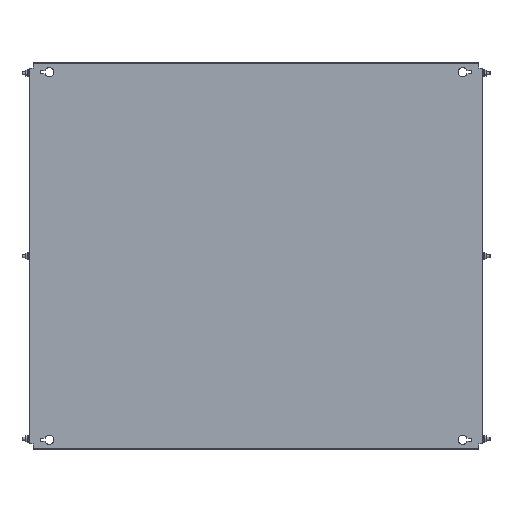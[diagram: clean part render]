
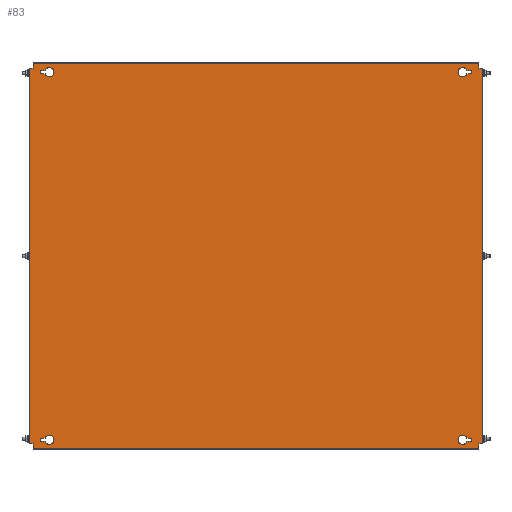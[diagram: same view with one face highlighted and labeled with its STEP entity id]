
A CAD part, top view. The second image highlights one B-rep face of the part: STEP entity #83.
In plain terms, the highlighted planar face has unit normal (0, 0, 1).
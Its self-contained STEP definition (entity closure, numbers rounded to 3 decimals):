
#83 = ADVANCED_FACE('',(#84,#119,#154,#316,#351),#386,.T.);
#84 = FACE_BOUND('',#85,.T.);
#85 = EDGE_LOOP('',(#86,#96,#104,#112));
#86 = ORIENTED_EDGE('',*,*,#87,.T.);
#87 = EDGE_CURVE('',#88,#90,#92,.T.);
#88 = VERTEX_POINT('',#89);
#89 = CARTESIAN_POINT('',(418.393,367.75,2.));
#90 = VERTEX_POINT('',#91);
#91 = CARTESIAN_POINT('',(428.,367.75,2.));
#92 = LINE('',#93,#94);
#93 = CARTESIAN_POINT('',(427.,367.75,2.));
#94 = VECTOR('',#95,1.);
#95 = DIRECTION('',(1.,0.,0.));
#96 = ORIENTED_EDGE('',*,*,#97,.T.);
#97 = EDGE_CURVE('',#90,#98,#100,.T.);
#98 = VERTEX_POINT('',#99);
#99 = CARTESIAN_POINT('',(428.,361.25,2.));
#100 = LINE('',#101,#102);
#101 = CARTESIAN_POINT('',(428.,367.75,2.));
#102 = VECTOR('',#103,1.);
#103 = DIRECTION('',(0.,-1.,0.));
#104 = ORIENTED_EDGE('',*,*,#105,.T.);
#105 = EDGE_CURVE('',#98,#106,#108,.T.);
#106 = VERTEX_POINT('',#107);
#107 = CARTESIAN_POINT('',(418.393,361.25,2.));
#108 = LINE('',#109,#110);
#109 = CARTESIAN_POINT('',(427.,361.25,2.));
#110 = VECTOR('',#111,1.);
#111 = DIRECTION('',(-1.,0.,0.));
#112 = ORIENTED_EDGE('',*,*,#113,.T.);
#113 = EDGE_CURVE('',#106,#88,#114,.T.);
#114 = CIRCLE('',#115,9.);
#115 = AXIS2_PLACEMENT_3D('',#116,#117,#118);
#116 = CARTESIAN_POINT('',(410.,364.5,2.));
#117 = DIRECTION('',(0.,0.,-1.));
#118 = DIRECTION('',(1.,0.,0.));
#119 = FACE_BOUND('',#120,.T.);
#120 = EDGE_LOOP('',(#121,#131,#139,#147));
#121 = ORIENTED_EDGE('',*,*,#122,.T.);
#122 = EDGE_CURVE('',#123,#125,#127,.T.);
#123 = VERTEX_POINT('',#124);
#124 = CARTESIAN_POINT('',(-418.393,-367.75,2.));
#125 = VERTEX_POINT('',#126);
#126 = CARTESIAN_POINT('',(-428.,-367.75,2.));
#127 = LINE('',#128,#129);
#128 = CARTESIAN_POINT('',(-427.,-367.75,2.));
#129 = VECTOR('',#130,1.);
#130 = DIRECTION('',(-1.,0.,0.));
#131 = ORIENTED_EDGE('',*,*,#132,.T.);
#132 = EDGE_CURVE('',#125,#133,#135,.T.);
#133 = VERTEX_POINT('',#134);
#134 = CARTESIAN_POINT('',(-428.,-361.25,2.));
#135 = LINE('',#136,#137);
#136 = CARTESIAN_POINT('',(-428.,-367.75,2.));
#137 = VECTOR('',#138,1.);
#138 = DIRECTION('',(0.,1.,0.));
#139 = ORIENTED_EDGE('',*,*,#140,.T.);
#140 = EDGE_CURVE('',#133,#141,#143,.T.);
#141 = VERTEX_POINT('',#142);
#142 = CARTESIAN_POINT('',(-418.393,-361.25,2.));
#143 = LINE('',#144,#145);
#144 = CARTESIAN_POINT('',(-427.,-361.25,2.));
#145 = VECTOR('',#146,1.);
#146 = DIRECTION('',(1.,-0.,-0.));
#147 = ORIENTED_EDGE('',*,*,#148,.T.);
#148 = EDGE_CURVE('',#141,#123,#149,.T.);
#149 = CIRCLE('',#150,9.);
#150 = AXIS2_PLACEMENT_3D('',#151,#152,#153);
#151 = CARTESIAN_POINT('',(-410.,-364.5,2.));
#152 = DIRECTION('',(0.,0.,-1.));
#153 = DIRECTION('',(-1.,0.,0.));
#154 = FACE_BOUND('',#155,.T.);
#155 = EDGE_LOOP('',(#156,#166,#174,#182,#190,#198,#206,#214,#222,#230,
    #238,#246,#254,#262,#270,#278,#286,#294,#302,#310));
#156 = ORIENTED_EDGE('',*,*,#157,.F.);
#157 = EDGE_CURVE('',#158,#160,#162,.T.);
#158 = VERTEX_POINT('',#159);
#159 = CARTESIAN_POINT('',(-447.4,372.5,2.));
#160 = VERTEX_POINT('',#161);
#161 = CARTESIAN_POINT('',(-442.,372.5,2.));
#162 = LINE('',#163,#164);
#163 = CARTESIAN_POINT('',(-448.,372.5,2.));
#164 = VECTOR('',#165,1.);
#165 = DIRECTION('',(1.,0.,-0.));
#166 = ORIENTED_EDGE('',*,*,#167,.T.);
#167 = EDGE_CURVE('',#158,#168,#170,.T.);
#168 = VERTEX_POINT('',#169);
#169 = CARTESIAN_POINT('',(-450.,372.5,2.));
#170 = LINE('',#171,#172);
#171 = CARTESIAN_POINT('',(-447.4,372.5,2.));
#172 = VECTOR('',#173,1.);
#173 = DIRECTION('',(-1.,0.,0.));
#174 = ORIENTED_EDGE('',*,*,#175,.F.);
#175 = EDGE_CURVE('',#176,#168,#178,.T.);
#176 = VERTEX_POINT('',#177);
#177 = CARTESIAN_POINT('',(-450.,-372.5,2.));
#178 = LINE('',#179,#180);
#179 = CARTESIAN_POINT('',(-450.,-382.5,2.));
#180 = VECTOR('',#181,1.);
#181 = DIRECTION('',(0.,1.,-0.));
#182 = ORIENTED_EDGE('',*,*,#183,.F.);
#183 = EDGE_CURVE('',#184,#176,#186,.T.);
#184 = VERTEX_POINT('',#185);
#185 = CARTESIAN_POINT('',(-447.4,-372.5,2.));
#186 = LINE('',#187,#188);
#187 = CARTESIAN_POINT('',(-442.,-372.5,2.));
#188 = VECTOR('',#189,1.);
#189 = DIRECTION('',(-1.,-0.,-0.));
#190 = ORIENTED_EDGE('',*,*,#191,.T.);
#191 = EDGE_CURVE('',#184,#192,#194,.T.);
#192 = VERTEX_POINT('',#193);
#193 = CARTESIAN_POINT('',(-442.,-372.5,2.));
#194 = LINE('',#195,#196);
#195 = CARTESIAN_POINT('',(-448.,-372.5,2.));
#196 = VECTOR('',#197,1.);
#197 = DIRECTION('',(1.,0.,-0.));
#198 = ORIENTED_EDGE('',*,*,#199,.T.);
#199 = EDGE_CURVE('',#192,#200,#202,.T.);
#200 = VERTEX_POINT('',#201);
#201 = CARTESIAN_POINT('',(-442.,-381.9,2.));
#202 = LINE('',#203,#204);
#203 = CARTESIAN_POINT('',(-442.,382.5,2.));
#204 = VECTOR('',#205,1.);
#205 = DIRECTION('',(0.,-1.,0.));
#206 = ORIENTED_EDGE('',*,*,#207,.T.);
#207 = EDGE_CURVE('',#200,#208,#210,.T.);
#208 = VERTEX_POINT('',#209);
#209 = CARTESIAN_POINT('',(-442.,-382.5,2.));
#210 = LINE('',#211,#212);
#211 = CARTESIAN_POINT('',(-442.,-381.9,2.));
#212 = VECTOR('',#213,1.);
#213 = DIRECTION('',(-0.,-1.,-0.));
#214 = ORIENTED_EDGE('',*,*,#215,.T.);
#215 = EDGE_CURVE('',#208,#216,#218,.T.);
#216 = VERTEX_POINT('',#217);
#217 = CARTESIAN_POINT('',(442.,-382.5,2.));
#218 = LINE('',#219,#220);
#219 = CARTESIAN_POINT('',(442.,-382.5,2.));
#220 = VECTOR('',#221,1.);
#221 = DIRECTION('',(1.,0.,0.));
#222 = ORIENTED_EDGE('',*,*,#223,.F.);
#223 = EDGE_CURVE('',#224,#216,#226,.T.);
#224 = VERTEX_POINT('',#225);
#225 = CARTESIAN_POINT('',(442.,-381.9,2.));
#226 = LINE('',#227,#228);
#227 = CARTESIAN_POINT('',(442.,-382.5,2.));
#228 = VECTOR('',#229,1.);
#229 = DIRECTION('',(0.,-1.,0.));
#230 = ORIENTED_EDGE('',*,*,#231,.T.);
#231 = EDGE_CURVE('',#224,#232,#234,.T.);
#232 = VERTEX_POINT('',#233);
#233 = CARTESIAN_POINT('',(442.,-372.5,2.));
#234 = LINE('',#235,#236);
#235 = CARTESIAN_POINT('',(442.,382.5,2.));
#236 = VECTOR('',#237,1.);
#237 = DIRECTION('',(0.,1.,-0.));
#238 = ORIENTED_EDGE('',*,*,#239,.F.);
#239 = EDGE_CURVE('',#240,#232,#242,.T.);
#240 = VERTEX_POINT('',#241);
#241 = CARTESIAN_POINT('',(447.4,-372.5,2.));
#242 = LINE('',#243,#244);
#243 = CARTESIAN_POINT('',(448.,-372.5,2.));
#244 = VECTOR('',#245,1.);
#245 = DIRECTION('',(-1.,0.,-0.));
#246 = ORIENTED_EDGE('',*,*,#247,.T.);
#247 = EDGE_CURVE('',#240,#248,#250,.T.);
#248 = VERTEX_POINT('',#249);
#249 = CARTESIAN_POINT('',(450.,-372.5,2.));
#250 = LINE('',#251,#252);
#251 = CARTESIAN_POINT('',(447.4,-372.5,2.));
#252 = VECTOR('',#253,1.);
#253 = DIRECTION('',(1.,-0.,0.));
#254 = ORIENTED_EDGE('',*,*,#255,.F.);
#255 = EDGE_CURVE('',#256,#248,#258,.T.);
#256 = VERTEX_POINT('',#257);
#257 = CARTESIAN_POINT('',(450.,372.5,2.));
#258 = LINE('',#259,#260);
#259 = CARTESIAN_POINT('',(450.,-382.5,2.));
#260 = VECTOR('',#261,1.);
#261 = DIRECTION('',(0.,-1.,-0.));
#262 = ORIENTED_EDGE('',*,*,#263,.F.);
#263 = EDGE_CURVE('',#264,#256,#266,.T.);
#264 = VERTEX_POINT('',#265);
#265 = CARTESIAN_POINT('',(447.4,372.5,2.));
#266 = LINE('',#267,#268);
#267 = CARTESIAN_POINT('',(-442.,372.5,2.));
#268 = VECTOR('',#269,1.);
#269 = DIRECTION('',(1.,-0.,0.));
#270 = ORIENTED_EDGE('',*,*,#271,.T.);
#271 = EDGE_CURVE('',#264,#272,#274,.T.);
#272 = VERTEX_POINT('',#273);
#273 = CARTESIAN_POINT('',(442.,372.5,2.));
#274 = LINE('',#275,#276);
#275 = CARTESIAN_POINT('',(448.,372.5,2.));
#276 = VECTOR('',#277,1.);
#277 = DIRECTION('',(-1.,0.,-0.));
#278 = ORIENTED_EDGE('',*,*,#279,.T.);
#279 = EDGE_CURVE('',#272,#280,#282,.T.);
#280 = VERTEX_POINT('',#281);
#281 = CARTESIAN_POINT('',(442.,381.9,2.));
#282 = LINE('',#283,#284);
#283 = CARTESIAN_POINT('',(442.,382.5,2.));
#284 = VECTOR('',#285,1.);
#285 = DIRECTION('',(0.,1.,-0.));
#286 = ORIENTED_EDGE('',*,*,#287,.T.);
#287 = EDGE_CURVE('',#280,#288,#290,.T.);
#288 = VERTEX_POINT('',#289);
#289 = CARTESIAN_POINT('',(442.,382.5,2.));
#290 = LINE('',#291,#292);
#291 = CARTESIAN_POINT('',(442.,381.9,2.));
#292 = VECTOR('',#293,1.);
#293 = DIRECTION('',(-0.,1.,-0.));
#294 = ORIENTED_EDGE('',*,*,#295,.T.);
#295 = EDGE_CURVE('',#288,#296,#298,.T.);
#296 = VERTEX_POINT('',#297);
#297 = CARTESIAN_POINT('',(-442.,382.5,2.));
#298 = LINE('',#299,#300);
#299 = CARTESIAN_POINT('',(-442.,382.5,2.));
#300 = VECTOR('',#301,1.);
#301 = DIRECTION('',(-1.,0.,0.));
#302 = ORIENTED_EDGE('',*,*,#303,.F.);
#303 = EDGE_CURVE('',#304,#296,#306,.T.);
#304 = VERTEX_POINT('',#305);
#305 = CARTESIAN_POINT('',(-442.,381.9,2.));
#306 = LINE('',#307,#308);
#307 = CARTESIAN_POINT('',(-442.,-382.5,2.));
#308 = VECTOR('',#309,1.);
#309 = DIRECTION('',(0.,1.,-0.));
#310 = ORIENTED_EDGE('',*,*,#311,.T.);
#311 = EDGE_CURVE('',#304,#160,#312,.T.);
#312 = LINE('',#313,#314);
#313 = CARTESIAN_POINT('',(-442.,382.5,2.));
#314 = VECTOR('',#315,1.);
#315 = DIRECTION('',(0.,-1.,0.));
#316 = FACE_BOUND('',#317,.T.);
#317 = EDGE_LOOP('',(#318,#328,#336,#344));
#318 = ORIENTED_EDGE('',*,*,#319,.F.);
#319 = EDGE_CURVE('',#320,#322,#324,.T.);
#320 = VERTEX_POINT('',#321);
#321 = CARTESIAN_POINT('',(428.,-361.25,2.));
#322 = VERTEX_POINT('',#323);
#323 = CARTESIAN_POINT('',(418.393,-361.25,2.));
#324 = LINE('',#325,#326);
#325 = CARTESIAN_POINT('',(418.393,-361.25,2.));
#326 = VECTOR('',#327,1.);
#327 = DIRECTION('',(-1.,0.,0.));
#328 = ORIENTED_EDGE('',*,*,#329,.F.);
#329 = EDGE_CURVE('',#330,#320,#332,.T.);
#330 = VERTEX_POINT('',#331);
#331 = CARTESIAN_POINT('',(428.,-367.75,2.));
#332 = LINE('',#333,#334);
#333 = CARTESIAN_POINT('',(428.,-361.25,2.));
#334 = VECTOR('',#335,1.);
#335 = DIRECTION('',(0.,1.,0.));
#336 = ORIENTED_EDGE('',*,*,#337,.F.);
#337 = EDGE_CURVE('',#338,#330,#340,.T.);
#338 = VERTEX_POINT('',#339);
#339 = CARTESIAN_POINT('',(418.393,-367.75,2.));
#340 = LINE('',#341,#342);
#341 = CARTESIAN_POINT('',(427.,-367.75,2.));
#342 = VECTOR('',#343,1.);
#343 = DIRECTION('',(1.,0.,0.));
#344 = ORIENTED_EDGE('',*,*,#345,.F.);
#345 = EDGE_CURVE('',#322,#338,#346,.T.);
#346 = CIRCLE('',#347,9.);
#347 = AXIS2_PLACEMENT_3D('',#348,#349,#350);
#348 = CARTESIAN_POINT('',(410.,-364.5,2.));
#349 = DIRECTION('',(0.,-0.,1.));
#350 = DIRECTION('',(1.,0.,0.));
#351 = FACE_BOUND('',#352,.T.);
#352 = EDGE_LOOP('',(#353,#363,#371,#379));
#353 = ORIENTED_EDGE('',*,*,#354,.F.);
#354 = EDGE_CURVE('',#355,#357,#359,.T.);
#355 = VERTEX_POINT('',#356);
#356 = CARTESIAN_POINT('',(-428.,361.25,2.));
#357 = VERTEX_POINT('',#358);
#358 = CARTESIAN_POINT('',(-418.393,361.25,2.));
#359 = LINE('',#360,#361);
#360 = CARTESIAN_POINT('',(-418.393,361.25,2.));
#361 = VECTOR('',#362,1.);
#362 = DIRECTION('',(1.,0.,0.));
#363 = ORIENTED_EDGE('',*,*,#364,.F.);
#364 = EDGE_CURVE('',#365,#355,#367,.T.);
#365 = VERTEX_POINT('',#366);
#366 = CARTESIAN_POINT('',(-428.,367.75,2.));
#367 = LINE('',#368,#369);
#368 = CARTESIAN_POINT('',(-428.,361.25,2.));
#369 = VECTOR('',#370,1.);
#370 = DIRECTION('',(0.,-1.,0.));
#371 = ORIENTED_EDGE('',*,*,#372,.F.);
#372 = EDGE_CURVE('',#373,#365,#375,.T.);
#373 = VERTEX_POINT('',#374);
#374 = CARTESIAN_POINT('',(-418.393,367.75,2.));
#375 = LINE('',#376,#377);
#376 = CARTESIAN_POINT('',(-427.,367.75,2.));
#377 = VECTOR('',#378,1.);
#378 = DIRECTION('',(-1.,0.,0.));
#379 = ORIENTED_EDGE('',*,*,#380,.F.);
#380 = EDGE_CURVE('',#357,#373,#381,.T.);
#381 = CIRCLE('',#382,9.);
#382 = AXIS2_PLACEMENT_3D('',#383,#384,#385);
#383 = CARTESIAN_POINT('',(-410.,364.5,2.));
#384 = DIRECTION('',(0.,-0.,1.));
#385 = DIRECTION('',(-1.,0.,0.));
#386 = PLANE('',#387);
#387 = AXIS2_PLACEMENT_3D('',#388,#389,#390);
#388 = CARTESIAN_POINT('',(-442.,-382.5,2.));
#389 = DIRECTION('',(-0.,0.,1.));
#390 = DIRECTION('',(1.,0.,0.));
